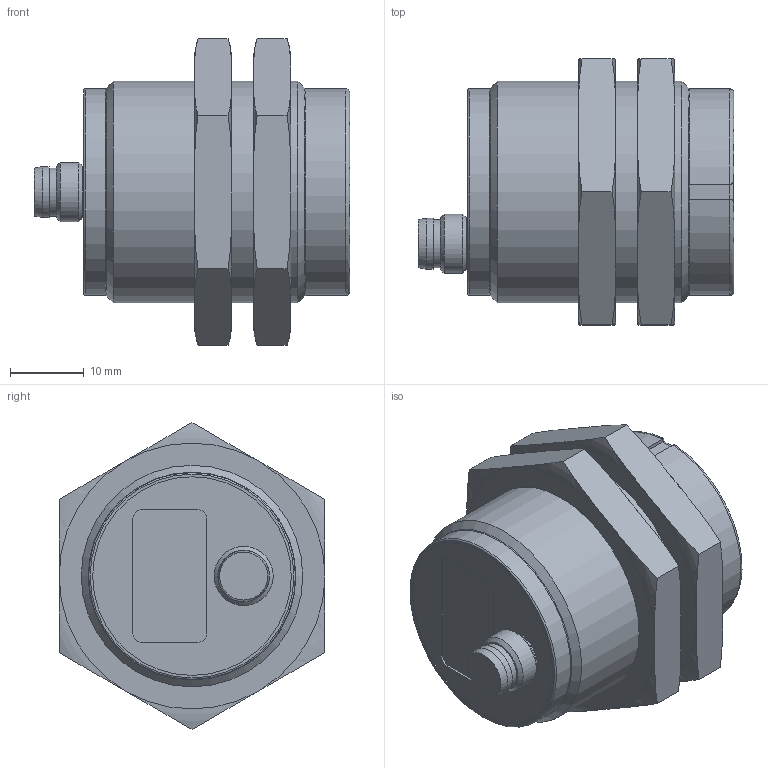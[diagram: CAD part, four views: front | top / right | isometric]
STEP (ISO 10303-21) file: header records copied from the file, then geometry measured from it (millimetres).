
FILE_DESCRIPTION((''),'2;1');
FILE_NAME('E:\Vault Daten\Projektordner\Sensoren\Magnetschalter\Kundendaten\H302972-A_S_M30x36mm.stp','2011-09-19T15:57:12',('pschmucki'),(''),'Autodesk Inventor 2010','Autodesk Inventor 2010','');
FILE_SCHEMA(('CONFIG_CONTROL_DESIGN'));
Length unit declared in the file: millimetre
Products named in the file (1): H302972_PSENma_x.2_Sensor_Konturvereinfachung_1
Bounding box: 42.7 x 36 x 41.57 mm (x, y, z)
Volume: 28826.2 mm3; surface area: 6749.1 mm2
Topology: 2 solids, 2 shells, 129 faces, 342 edges, 232 vertices
Faces by surface type: plane 73, cylinder 27, torus 14, cone 13, bspline 2
Full cylindrical faces by diameter (mm): 1.334 x1, 5.8 x1, 6.5 x1, 6.8 x1, 6.9 x1, 8 x1, 26.9 x1, 28 x1, 30 x3
Entity records: 4285 total; most frequent: CARTESIAN_POINT 1215, ORIENTED_EDGE 634, DIRECTION 579, EDGE_CURVE 317, VERTEX_POINT 226, AXIS2_PLACEMENT_3D 208, EDGE_LOOP 165, VECTOR 163
